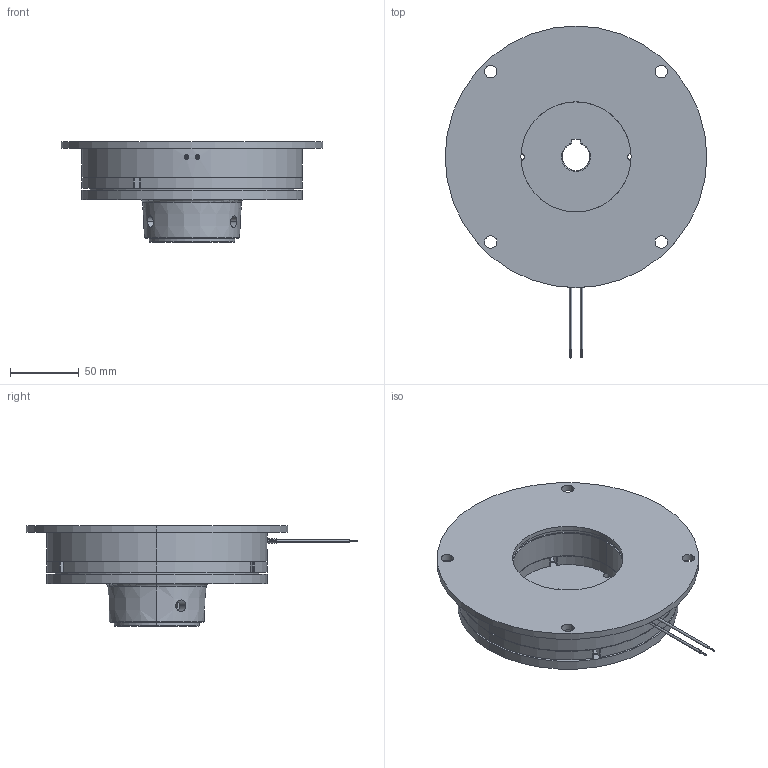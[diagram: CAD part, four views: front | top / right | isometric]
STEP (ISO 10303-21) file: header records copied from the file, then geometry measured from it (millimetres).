
FILE_DESCRIPTION (( 'STEP AP214' ), '1' );
FILE_NAME ('dr_bk_1002-130_mu.STEP', '2021-11-10T10:22:48', ( '' ), ( '' ), 'SwSTEP 2.0', 'SolidWorks 2019', '' );
FILE_SCHEMA (( 'AUTOMOTIVE_DESIGN' ));
Length unit declared in the file: millimetre
Products named in the file (11): 10068864_000_Einbaul„nge 5,7mm; 10068864_000_Einbaul„nge 5,6mm; 10068865_000; dr_bk_1002-130_mu; 10068872_000_M 10 x 16; 10068862_000; 10068871_000; 10068863_000; 10068870_000; 10068866_000; 10068701_000
Assembly tree (20 placements, depth 4):
  dr_bk_1002-130_mu
    10068701_000
    10068871_000
      10068870_000
      10068866_000
        10068863_000
        10068862_000
        10068864_000_Einbaul„nge 5,6mm  x3
        10068865_000  x3
      10068864_000_Einbaul„nge 5,7mm  x3
      10068865_000  x3
      10068872_000_M 10 x 16  x2
Bounding box: 190 x 241 x 73.2 mm (x, y, z)
Volume: 787600.5 mm3; surface area: 186949.2 mm2
Topology: 20 solids, 20 shells, 594 faces, 1419 edges, 896 vertices
Faces by surface type: cylinder 188, plane 171, bspline 111, cone 88, torus 24, sphere 12
Entity records: 22664 total; most frequent: CARTESIAN_POINT 10626, ORIENTED_EDGE 2314, DIRECTION 2027, EDGE_CURVE 1157, VERTEX_POINT 747, AXIS2_PLACEMENT_3D 734, EDGE_LOOP 568, LINE 559
